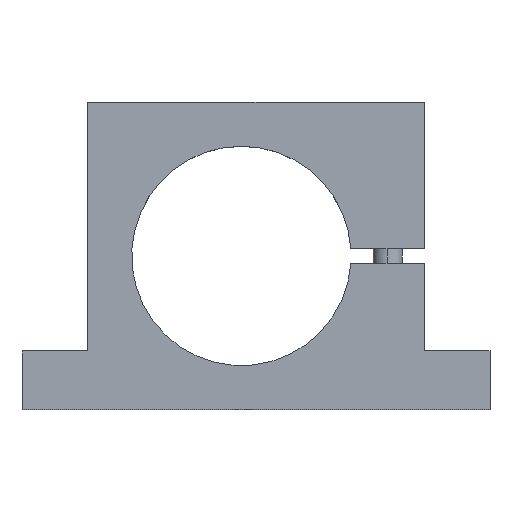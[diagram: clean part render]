
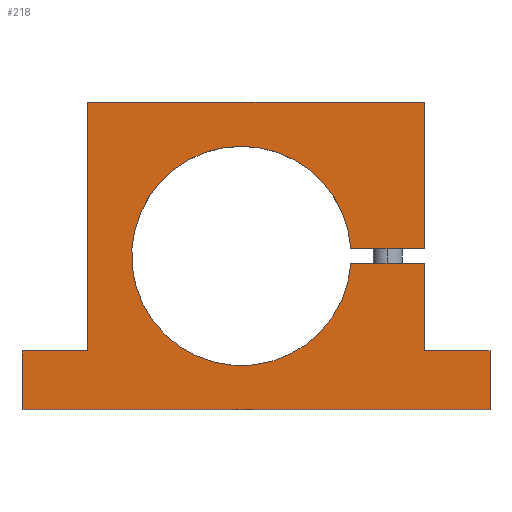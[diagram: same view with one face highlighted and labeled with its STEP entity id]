
A CAD part, top view. The second image highlights one B-rep face of the part: STEP entity #218.
In plain terms, the highlighted planar face has unit normal (0, 0, 1).
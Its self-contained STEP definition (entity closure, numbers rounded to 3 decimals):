
#61=CARTESIAN_POINT('Vertex',(-37.417,55.,30.)) ;
#66=CARTESIAN_POINT('Axis2P3D Location',(0.,52.5,30.)) ;
#70=CARTESIAN_POINT('Vertex',(37.417,50.,30.)) ;
#108=CARTESIAN_POINT('Vertex',(37.417,55.,30.)) ;
#111=CARTESIAN_POINT('Axis2P3D Location',(0.,52.5,30.)) ;
#123=CARTESIAN_POINT('Axis2P3D Location',(0.,0.,30.)) ;
#128=CARTESIAN_POINT('Line Origine',(-75.,10.,30.)) ;
#132=CARTESIAN_POINT('Vertex',(-75.,0.,30.)) ;
#134=CARTESIAN_POINT('Vertex',(-75.,20.,30.)) ;
#137=CARTESIAN_POINT('Line Origine',(5.,0.,30.)) ;
#141=CARTESIAN_POINT('Vertex',(85.,0.,30.)) ;
#144=CARTESIAN_POINT('Line Origine',(85.,10.,30.)) ;
#148=CARTESIAN_POINT('Vertex',(85.,20.,30.)) ;
#151=CARTESIAN_POINT('Line Origine',(73.75,20.,30.)) ;
#155=CARTESIAN_POINT('Vertex',(62.5,20.,30.)) ;
#158=CARTESIAN_POINT('Line Origine',(62.5,35.,30.)) ;
#162=CARTESIAN_POINT('Vertex',(62.5,50.,30.)) ;
#165=CARTESIAN_POINT('Line Origine',(49.958,50.,30.)) ;
#170=CARTESIAN_POINT('Line Origine',(49.958,55.,30.)) ;
#174=CARTESIAN_POINT('Vertex',(62.5,55.,30.)) ;
#177=CARTESIAN_POINT('Line Origine',(62.5,80.,30.)) ;
#181=CARTESIAN_POINT('Vertex',(62.5,105.,30.)) ;
#184=CARTESIAN_POINT('Line Origine',(5.,105.,30.)) ;
#188=CARTESIAN_POINT('Vertex',(-52.5,105.,30.)) ;
#191=CARTESIAN_POINT('Line Origine',(-52.5,62.5,30.)) ;
#195=CARTESIAN_POINT('Vertex',(-52.5,20.,30.)) ;
#198=CARTESIAN_POINT('Line Origine',(-63.75,20.,30.)) ;
#67=DIRECTION('Axis2P3D Direction',(0.,0.,-1.)) ;
#112=DIRECTION('Axis2P3D Direction',(0.,0.,-1.)) ;
#124=DIRECTION('Axis2P3D Direction',(0.,0.,1.)) ;
#125=DIRECTION('Axis2P3D XDirection',(1.,0.,0.)) ;
#129=DIRECTION('Vector Direction',(0.,1.,0.)) ;
#138=DIRECTION('Vector Direction',(-1.,0.,0.)) ;
#145=DIRECTION('Vector Direction',(0.,-1.,0.)) ;
#152=DIRECTION('Vector Direction',(1.,0.,0.)) ;
#159=DIRECTION('Vector Direction',(0.,-1.,0.)) ;
#166=DIRECTION('Vector Direction',(1.,0.,0.)) ;
#171=DIRECTION('Vector Direction',(-1.,0.,0.)) ;
#178=DIRECTION('Vector Direction',(0.,-1.,0.)) ;
#185=DIRECTION('Vector Direction',(1.,0.,0.)) ;
#192=DIRECTION('Vector Direction',(0.,1.,0.)) ;
#199=DIRECTION('Vector Direction',(1.,0.,0.)) ;
#68=AXIS2_PLACEMENT_3D('Circle Axis2P3D',#66,#67,$) ;
#113=AXIS2_PLACEMENT_3D('Circle Axis2P3D',#111,#112,$) ;
#126=AXIS2_PLACEMENT_3D('Plane Axis2P3D',#123,#124,#125) ;
#204=ORIENTED_EDGE('',*,*,#136,.F.) ;
#205=ORIENTED_EDGE('',*,*,#143,.F.) ;
#206=ORIENTED_EDGE('',*,*,#150,.F.) ;
#207=ORIENTED_EDGE('',*,*,#157,.F.) ;
#208=ORIENTED_EDGE('',*,*,#164,.F.) ;
#209=ORIENTED_EDGE('',*,*,#169,.F.) ;
#210=ORIENTED_EDGE('',*,*,#72,.F.) ;
#211=ORIENTED_EDGE('',*,*,#115,.F.) ;
#212=ORIENTED_EDGE('',*,*,#176,.F.) ;
#213=ORIENTED_EDGE('',*,*,#183,.F.) ;
#214=ORIENTED_EDGE('',*,*,#190,.F.) ;
#215=ORIENTED_EDGE('',*,*,#197,.F.) ;
#216=ORIENTED_EDGE('',*,*,#202,.F.) ;
#130=VECTOR('Line Direction',#129,1.) ;
#139=VECTOR('Line Direction',#138,1.) ;
#146=VECTOR('Line Direction',#145,1.) ;
#153=VECTOR('Line Direction',#152,1.) ;
#160=VECTOR('Line Direction',#159,1.) ;
#167=VECTOR('Line Direction',#166,1.) ;
#172=VECTOR('Line Direction',#171,1.) ;
#179=VECTOR('Line Direction',#178,1.) ;
#186=VECTOR('Line Direction',#185,1.) ;
#193=VECTOR('Line Direction',#192,1.) ;
#200=VECTOR('Line Direction',#199,1.) ;
#218=ADVANCED_FACE('',(#217),#127,.T.) ;
#69=CIRCLE('generated circle',#68,37.5) ;
#114=CIRCLE('generated circle',#113,37.5) ;
#72=EDGE_CURVE('',#62,#71,#69,.F.) ;
#115=EDGE_CURVE('',#109,#62,#114,.F.) ;
#136=EDGE_CURVE('',#133,#135,#131,.T.) ;
#143=EDGE_CURVE('',#142,#133,#140,.T.) ;
#150=EDGE_CURVE('',#149,#142,#147,.T.) ;
#157=EDGE_CURVE('',#156,#149,#154,.T.) ;
#164=EDGE_CURVE('',#163,#156,#161,.T.) ;
#169=EDGE_CURVE('',#71,#163,#168,.T.) ;
#176=EDGE_CURVE('',#175,#109,#173,.T.) ;
#183=EDGE_CURVE('',#182,#175,#180,.T.) ;
#190=EDGE_CURVE('',#189,#182,#187,.T.) ;
#197=EDGE_CURVE('',#196,#189,#194,.T.) ;
#202=EDGE_CURVE('',#135,#196,#201,.T.) ;
#203=EDGE_LOOP('',(#204,#205,#206,#207,#208,#209,#210,#211,#212,#213,#214,#215,#216)) ;
#217=FACE_OUTER_BOUND('',#203,.T.) ;
#131=LINE('Line',#128,#130) ;
#140=LINE('Line',#137,#139) ;
#147=LINE('Line',#144,#146) ;
#154=LINE('Line',#151,#153) ;
#161=LINE('Line',#158,#160) ;
#168=LINE('Line',#165,#167) ;
#173=LINE('Line',#170,#172) ;
#180=LINE('Line',#177,#179) ;
#187=LINE('Line',#184,#186) ;
#194=LINE('Line',#191,#193) ;
#201=LINE('Line',#198,#200) ;
#127=PLANE('Plane',#126) ;
#62=VERTEX_POINT('',#61) ;
#71=VERTEX_POINT('',#70) ;
#109=VERTEX_POINT('',#108) ;
#133=VERTEX_POINT('',#132) ;
#135=VERTEX_POINT('',#134) ;
#142=VERTEX_POINT('',#141) ;
#149=VERTEX_POINT('',#148) ;
#156=VERTEX_POINT('',#155) ;
#163=VERTEX_POINT('',#162) ;
#175=VERTEX_POINT('',#174) ;
#182=VERTEX_POINT('',#181) ;
#189=VERTEX_POINT('',#188) ;
#196=VERTEX_POINT('',#195) ;
